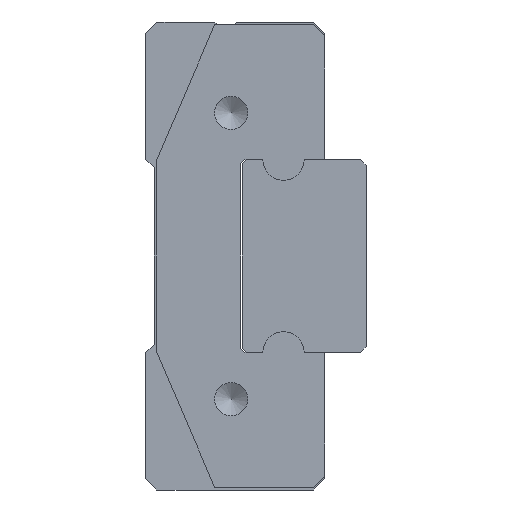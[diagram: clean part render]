
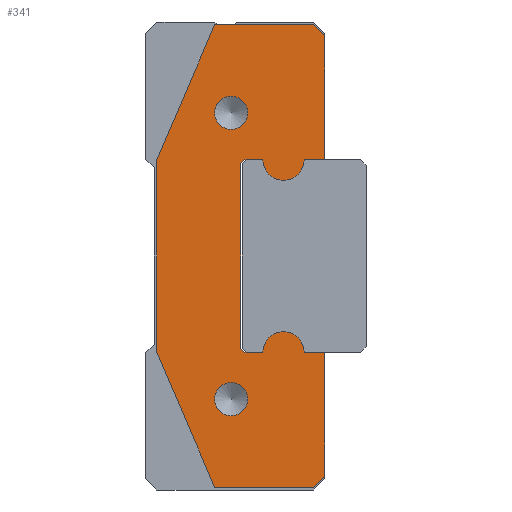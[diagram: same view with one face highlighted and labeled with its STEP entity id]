
A CAD part, left-side view. The second image highlights one B-rep face of the part: STEP entity #341.
In plain terms, the highlighted planar face has unit normal (-1, 0, 0) as drawn and (0, 0, 1) by its records, which use the part's own axes.
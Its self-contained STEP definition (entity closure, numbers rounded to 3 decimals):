
#341 = ADVANCED_FACE( '', ( #693, #694, #695 ), #696, .T. );
#693 = FACE_BOUND( '', #1051, .T. );
#694 = FACE_BOUND( '', #1052, .T. );
#695 = FACE_OUTER_BOUND( '', #1053, .T. );
#696 = PLANE( '', #1054 );
#1051 = EDGE_LOOP( '', ( #1730 ) );
#1052 = EDGE_LOOP( '', ( #1731 ) );
#1053 = EDGE_LOOP( '', ( #1732, #1733, #1734, #1735, #1736, #1737, #1738, #1739, #1740, #1741, #1742, #1743, #1744, #1745, #1746, #1747, #1748, #1749 ) );
#1054 = AXIS2_PLACEMENT_3D( '', #1750, #1751, #1752 );
#1730 = ORIENTED_EDGE( '', *, *, #2128, .F. );
#1731 = ORIENTED_EDGE( '', *, *, #2174, .F. );
#1732 = ORIENTED_EDGE( '', *, *, #2147, .T. );
#1733 = ORIENTED_EDGE( '', *, *, #2112, .T. );
#1734 = ORIENTED_EDGE( '', *, *, #2080, .T. );
#1735 = ORIENTED_EDGE( '', *, *, #2033, .T. );
#1736 = ORIENTED_EDGE( '', *, *, #2151, .T. );
#1737 = ORIENTED_EDGE( '', *, *, #2208, .T. );
#1738 = ORIENTED_EDGE( '', *, *, #2191, .T. );
#1739 = ORIENTED_EDGE( '', *, *, #1996, .T. );
#1740 = ORIENTED_EDGE( '', *, *, #2194, .T. );
#1741 = ORIENTED_EDGE( '', *, *, #2075, .T. );
#1742 = ORIENTED_EDGE( '', *, *, #2209, .T. );
#1743 = ORIENTED_EDGE( '', *, *, #2187, .T. );
#1744 = ORIENTED_EDGE( '', *, *, #2101, .T. );
#1745 = ORIENTED_EDGE( '', *, *, #1939, .T. );
#1746 = ORIENTED_EDGE( '', *, *, #2086, .T. );
#1747 = ORIENTED_EDGE( '', *, *, #2105, .T. );
#1748 = ORIENTED_EDGE( '', *, *, #2090, .T. );
#1749 = ORIENTED_EDGE( '', *, *, #2210, .T. );
#1750 = CARTESIAN_POINT( '', ( -3.5, 1.5, 0. ) );
#1751 = DIRECTION( '', ( 0., 0., 1. ) );
#1752 = DIRECTION( '', ( 1., 0., 0. ) );
#1939 = EDGE_CURVE( '', #2248, #2249, #2250, .T. );
#1996 = EDGE_CURVE( '', #2346, #2347, #2348, .T. );
#2033 = EDGE_CURVE( '', #2404, #2405, #2406, .T. );
#2075 = EDGE_CURVE( '', #2472, #2473, #2474, .T. );
#2080 = EDGE_CURVE( '', #2481, #2404, #2482, .T. );
#2086 = EDGE_CURVE( '', #2249, #2490, #2491, .T. );
#2090 = EDGE_CURVE( '', #2496, #2497, #2498, .T. );
#2101 = EDGE_CURVE( '', #2513, #2248, #2514, .T. );
#2105 = EDGE_CURVE( '', #2490, #2496, #2519, .T. );
#2112 = EDGE_CURVE( '', #2528, #2481, #2529, .T. );
#2128 = EDGE_CURVE( '', #2551, #2551, #2552, .T. );
#2147 = EDGE_CURVE( '', #2576, #2528, #2577, .T. );
#2151 = EDGE_CURVE( '', #2405, #2582, #2583, .T. );
#2174 = EDGE_CURVE( '', #2614, #2614, #2615, .T. );
#2187 = EDGE_CURVE( '', #2632, #2513, #2633, .T. );
#2191 = EDGE_CURVE( '', #2637, #2346, #2638, .T. );
#2194 = EDGE_CURVE( '', #2347, #2472, #2641, .T. );
#2208 = EDGE_CURVE( '', #2582, #2637, #2658, .T. );
#2209 = EDGE_CURVE( '', #2473, #2632, #2659, .T. );
#2210 = EDGE_CURVE( '', #2497, #2576, #2660, .T. );
#2248 = VERTEX_POINT( '', #2699 );
#2249 = VERTEX_POINT( '', #2700 );
#2250 = LINE( '', #2701, #2702 );
#2346 = VERTEX_POINT( '', #2826 );
#2347 = VERTEX_POINT( '', #2827 );
#2348 = LINE( '', #2828, #2829 );
#2404 = VERTEX_POINT( '', #2905 );
#2405 = VERTEX_POINT( '', #2906 );
#2406 = LINE( '', #2907, #2908 );
#2472 = VERTEX_POINT( '', #2993 );
#2473 = VERTEX_POINT( '', #2994 );
#2474 = LINE( '', #2995, #2996 );
#2481 = VERTEX_POINT( '', #3006 );
#2482 = LINE( '', #3007, #3008 );
#2490 = VERTEX_POINT( '', #3018 );
#2491 = LINE( '', #3019, #3020 );
#2496 = VERTEX_POINT( '', #3027 );
#2497 = VERTEX_POINT( '', #3028 );
#2498 = LINE( '', #3029, #3030 );
#2513 = VERTEX_POINT( '', #3052 );
#2514 = LINE( '', #3053, #3054 );
#2519 = LINE( '', #3061, #3062 );
#2528 = VERTEX_POINT( '', #3075 );
#2529 = LINE( '', #3076, #3077 );
#2551 = VERTEX_POINT( '', #3106 );
#2552 = CIRCLE( '', #3107, 0.6 );
#2576 = VERTEX_POINT( '', #3139 );
#2577 = LINE( '', #3140, #3141 );
#2582 = VERTEX_POINT( '', #3148 );
#2583 = CIRCLE( '', #3149, 0.75 );
#2614 = VERTEX_POINT( '', #3190 );
#2615 = CIRCLE( '', #3191, 0.6 );
#2632 = VERTEX_POINT( '', #3214 );
#2633 = LINE( '', #3215, #3216 );
#2637 = VERTEX_POINT( '', #3221 );
#2638 = LINE( '', #3222, #3223 );
#2641 = LINE( '', #3227, #3228 );
#2658 = LINE( '', #3250, #3251 );
#2659 = CIRCLE( '', #3252, 0.75 );
#2660 = LINE( '', #3253, #3254 );
#2699 = CARTESIAN_POINT( '', ( 8., 0., 0. ) );
#2700 = CARTESIAN_POINT( '', ( 8.4, 0.4, 0. ) );
#2701 = CARTESIAN_POINT( '', ( 8., 0., 0. ) );
#2702 = VECTOR( '', #3298, 1000. );
#2826 = CARTESIAN_POINT( '', ( -3.35, 3.05, 0. ) );
#2827 = CARTESIAN_POINT( '', ( 3.35, 3.05, 0. ) );
#2828 = CARTESIAN_POINT( '', ( -3.35, 3.05, 0. ) );
#2829 = VECTOR( '', #3372, 1000. );
#2905 = CARTESIAN_POINT( '', ( -3.5, 0., 0. ) );
#2906 = CARTESIAN_POINT( '', ( -3.5, 0.75, 0. ) );
#2907 = CARTESIAN_POINT( '', ( -3.5, 0., 0. ) );
#2908 = VECTOR( '', #3408, 1000. );
#2993 = CARTESIAN_POINT( '', ( 3.5, 2.9, 0. ) );
#2994 = CARTESIAN_POINT( '', ( 3.5, 2.25, 0. ) );
#2995 = CARTESIAN_POINT( '', ( 3.5, 2.9, 0. ) );
#2996 = VECTOR( '', #3464, 1000. );
#3006 = CARTESIAN_POINT( '', ( -8., 0., 0. ) );
#3007 = CARTESIAN_POINT( '', ( -8., 0., 0. ) );
#3008 = VECTOR( '', #3468, 1000. );
#3018 = CARTESIAN_POINT( '', ( 8.4, 4., 0. ) );
#3019 = CARTESIAN_POINT( '', ( 8.4, 0.4, 0. ) );
#3020 = VECTOR( '', #3474, 1000. );
#3027 = CARTESIAN_POINT( '', ( 3.5, 6.1, 0. ) );
#3028 = CARTESIAN_POINT( '', ( -3.5, 6.1, 0. ) );
#3029 = CARTESIAN_POINT( '', ( 3.5, 6.1, 0. ) );
#3030 = VECTOR( '', #3477, 1000. );
#3052 = CARTESIAN_POINT( '', ( 3.5, 0., 0. ) );
#3053 = CARTESIAN_POINT( '', ( 3.5, 0., 0. ) );
#3054 = VECTOR( '', #3485, 1000. );
#3061 = CARTESIAN_POINT( '', ( 8.4, 4., 0. ) );
#3062 = VECTOR( '', #3488, 1000. );
#3075 = CARTESIAN_POINT( '', ( -8.4, 0.4, 0. ) );
#3076 = CARTESIAN_POINT( '', ( -8.4, 0.4, 0. ) );
#3077 = VECTOR( '', #3493, 1000. );
#3106 = CARTESIAN_POINT( '', ( -4.6, 3.4, 0. ) );
#3107 = AXIS2_PLACEMENT_3D( '', #3507, #3508, #3509 );
#3139 = CARTESIAN_POINT( '', ( -8.4, 4., 0. ) );
#3140 = CARTESIAN_POINT( '', ( -8.4, 4., 0. ) );
#3141 = VECTOR( '', #3524, 1000. );
#3148 = CARTESIAN_POINT( '', ( -3.5, 2.25, 0. ) );
#3149 = AXIS2_PLACEMENT_3D( '', #3527, #3528, #3529 );
#3190 = CARTESIAN_POINT( '', ( 5.8, 3.4, 0. ) );
#3191 = AXIS2_PLACEMENT_3D( '', #3558, #3559, #3560 );
#3214 = CARTESIAN_POINT( '', ( 3.5, 0.75, 0. ) );
#3215 = CARTESIAN_POINT( '', ( 3.5, 0.75, 0. ) );
#3216 = VECTOR( '', #3570, 1000. );
#3221 = CARTESIAN_POINT( '', ( -3.5, 2.9, 0. ) );
#3222 = CARTESIAN_POINT( '', ( -3.5, 2.9, 0. ) );
#3223 = VECTOR( '', #3572, 1000. );
#3227 = CARTESIAN_POINT( '', ( 3.35, 3.05, 0. ) );
#3228 = VECTOR( '', #3574, 1000. );
#3250 = CARTESIAN_POINT( '', ( -3.5, 2.25, 0. ) );
#3251 = VECTOR( '', #3586, 1000. );
#3252 = AXIS2_PLACEMENT_3D( '', #3587, #3588, #3589 );
#3253 = CARTESIAN_POINT( '', ( -3.5, 6.1, 0. ) );
#3254 = VECTOR( '', #3590, 1000. );
#3298 = DIRECTION( '', ( 0.707, 0.707, 0. ) );
#3372 = DIRECTION( '', ( 1., 0., 0. ) );
#3408 = DIRECTION( '', ( 0., 1., 0. ) );
#3464 = DIRECTION( '', ( 0., -1., 0. ) );
#3468 = DIRECTION( '', ( 1., 0., 0. ) );
#3474 = DIRECTION( '', ( 0., 1., 0. ) );
#3477 = DIRECTION( '', ( -1., 0., 0. ) );
#3485 = DIRECTION( '', ( 1., 0., 0. ) );
#3488 = DIRECTION( '', ( -0.919, 0.394, 0. ) );
#3493 = DIRECTION( '', ( 0.707, -0.707, 0. ) );
#3507 = CARTESIAN_POINT( '', ( -5.2, 3.4, 0. ) );
#3508 = DIRECTION( '', ( 0., 0., 1. ) );
#3509 = DIRECTION( '', ( 1., 0., 0. ) );
#3524 = DIRECTION( '', ( 0., -1., 0. ) );
#3527 = CARTESIAN_POINT( '', ( -3.5, 1.5, 0. ) );
#3528 = DIRECTION( '', ( 0., 0., 1. ) );
#3529 = DIRECTION( '', ( 1., 0., 0. ) );
#3558 = CARTESIAN_POINT( '', ( 5.2, 3.4, 0. ) );
#3559 = DIRECTION( '', ( 0., 0., 1. ) );
#3560 = DIRECTION( '', ( 1., 0., 0. ) );
#3570 = DIRECTION( '', ( 0., -1., 0. ) );
#3572 = DIRECTION( '', ( 0.707, 0.707, 0. ) );
#3574 = DIRECTION( '', ( 0.707, -0.707, 0. ) );
#3586 = DIRECTION( '', ( 0., 1., 0. ) );
#3587 = CARTESIAN_POINT( '', ( 3.5, 1.5, 0. ) );
#3588 = DIRECTION( '', ( 0., 0., 1. ) );
#3589 = DIRECTION( '', ( 1., 0., 0. ) );
#3590 = DIRECTION( '', ( -0.919, -0.394, 0. ) );
